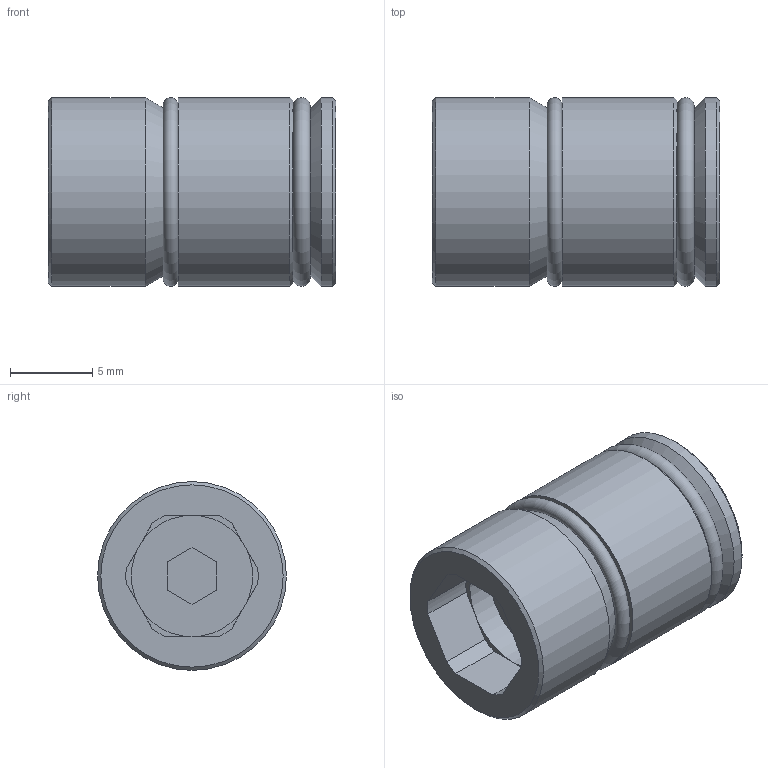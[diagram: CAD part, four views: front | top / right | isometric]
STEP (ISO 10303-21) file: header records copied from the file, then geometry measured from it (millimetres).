
FILE_DESCRIPTION( ( 'STEP AP214' ), '1' );
FILE_NAME( 'p:/temp/worker_227/temp/exporttempdir_600_591_LTdsH/format_0/TRI-11,5.stp', '2021-02-05T19:27:36', ( 'License CC BY-ND 4.0' ), ( 'CADENAS' ), ' ', 'PARTsolutions', ' ' );
FILE_SCHEMA( ( 'AUTOMOTIVE_DESIGN { 1 0 10303 214 1 1 1 1 }' ) );
Length unit declared in the file: millimetre
Products named in the file (1): _TRI-11,5
Bounding box: 17.5 x 11.5 x 11.5 mm (x, y, z)
Volume: 1521.9 mm3; surface area: 1098.3 mm2
Topology: 1 solids, 1 shells, 41 faces, 91 edges, 56 vertices
Faces by surface type: plane 24, cylinder 10, cone 5, torus 2
Full cylindrical faces by diameter (mm): 7.4 x1, 11.5 x3
Entity records: 1422 total; most frequent: DIRECTION 196, CARTESIAN_POINT 180, ORIENTED_EDGE 160, EDGE_CURVE 80, AXIS2_PLACEMENT_3D 74, VERTEX_POINT 58, EDGE_LOOP 56, LINE 48
